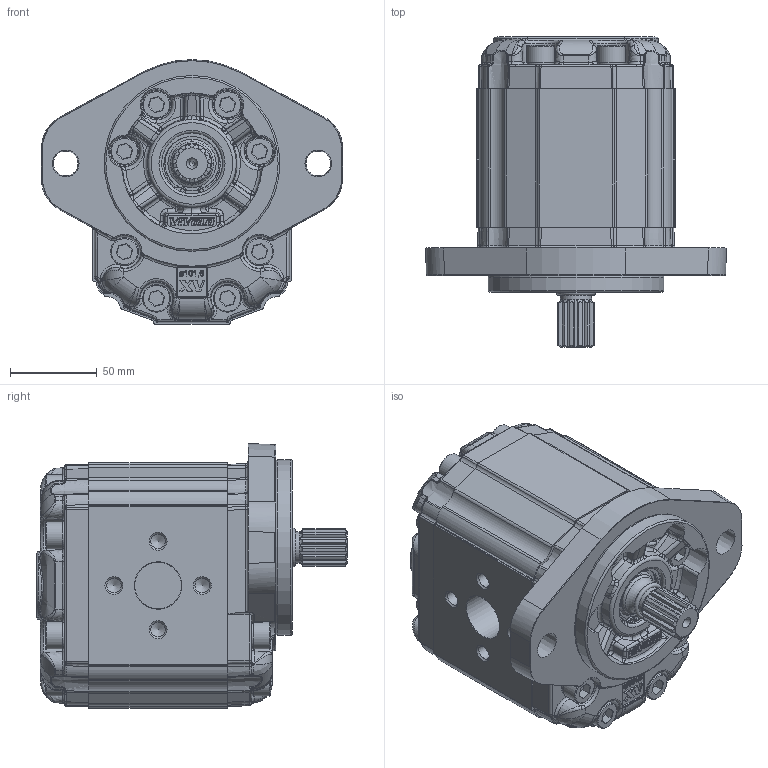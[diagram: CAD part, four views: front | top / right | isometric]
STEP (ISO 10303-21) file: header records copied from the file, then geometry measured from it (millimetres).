
FILE_DESCRIPTION(/* description */ ('Unknown'),/* implementation_level */ '2;1');
FILE_NAME(/* name */ 'X3P7432IBBA',/* time_stamp */ '2021-03-29T11:47:26+02:00',/* author */ ('Unknown'),/* organization */ ('Unknown'),/* preprocessor_version */ 'ST-DEVELOPER v16.7',/* originating_system */ 'Solid Edge',/* authorisation */ 'Unknown');
FILE_SCHEMA (('AUTOMOTIVE_DESIGN {1 0 10303 214 3 1 1}'));
Products named in the file (5): X3P7432IBBA; X3P32; 3I; X3BBH80; XP331-A
Assembly tree (4 placements, depth 2):
  X3P7432IBBA
    X3P32
    3I
    X3BBH80
    XP331-A
Bounding box: 174 x 179.2 x 153 mm (x, y, z)
Volume: 1977357.1 mm3; surface area: 205159.2 mm2
Topology: 4 solids, 21 shells, 3062 faces, 7898 edges, 4993 vertices
Faces by surface type: bspline 1317, plane 876, cylinder 654, cone 105, torus 94, sphere 16
Full cylindrical faces by diameter (mm): 2 x2, 8.376 x8, 10 x16, 15.8 x16, 16 x16, 18 x2, 24.98 x1, 25 x2, 25.968 x1, 27 x2, 28.16 x1, 31.293 x1, 32.742 x1, 34.956 x1, 35 x1, 35.2 x1, 37 x1, 101.6 x1
Entity records: 162906 total; most frequent: CARTESIAN_POINT 82491, ORIENTED_EDGE 15348, EDGE_CURVE 7674, DIRECTION 6756, B_SPLINE_CURVE_WITH_KNOTS 4985, VERTEX_POINT 4932, FACE_BOUND 3354, EDGE_LOOP 3344
